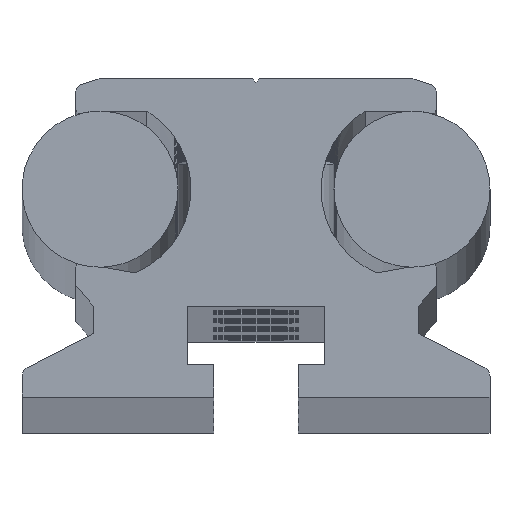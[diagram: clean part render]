
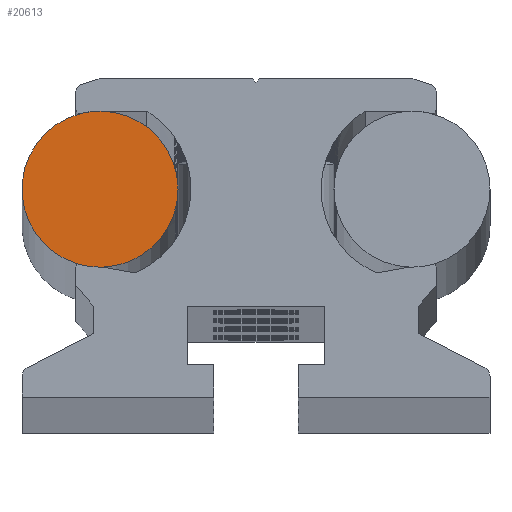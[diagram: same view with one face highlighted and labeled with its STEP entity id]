
A CAD part, top view. The second image highlights one B-rep face of the part: STEP entity #20613.
In plain terms, the highlighted planar face has unit normal (0, 0, 1).
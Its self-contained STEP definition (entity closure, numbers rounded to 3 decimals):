
#2989 = CARTESIAN_POINT ( 'NONE',  ( -12., 16., -0.5 ) ) ;
#3026 = DIRECTION ( 'NONE',  ( 0., 0., -1. ) ) ;
#3029 = DIRECTION ( 'NONE',  ( 1., 0., 0. ) ) ;
#3463 = CIRCLE ( 'NONE', #28660, 6. ) ;
#7160 = CIRCLE ( 'NONE', #19372, 6. ) ;
#7164 = CIRCLE ( 'NONE', #19376, 6. ) ;
#8023 = FACE_OUTER_BOUND ( 'NONE', #23238, .T. ) ;
#8882 = CARTESIAN_POINT ( 'NONE',  ( -13.719, 10.251, -0.5 ) ) ;
#8883 = CARTESIAN_POINT ( 'NONE',  ( -11.819, 10.003, -0.5 ) ) ;
#8890 = CARTESIAN_POINT ( 'NONE',  ( -6., 16., -0.5 ) ) ;
#8938 = CARTESIAN_POINT ( 'NONE',  ( -13.516, 21.805, -0.5 ) ) ;
#9077 = CARTESIAN_POINT ( 'NONE',  ( -12., 22., -0.5 ) ) ;
#9209 = CARTESIAN_POINT ( 'NONE',  ( -12., 16., -0.5 ) ) ;
#9215 = DIRECTION ( 'NONE',  ( 0., 0., -1. ) ) ;
#9216 = DIRECTION ( 'NONE',  ( 1., 0., 0. ) ) ;
#9976 = CARTESIAN_POINT ( 'NONE',  ( -12., 16., -0.5 ) ) ;
#9992 = DIRECTION ( 'NONE',  ( 0., 0., 1. ) ) ;
#9994 = DIRECTION ( 'NONE',  ( 1., 0., 0. ) ) ;
#10005 = CARTESIAN_POINT ( 'NONE',  ( -12., 16., -0.5 ) ) ;
#10019 = DIRECTION ( 'NONE',  ( 0., 0., 1. ) ) ;
#10021 = DIRECTION ( 'NONE',  ( 1., 0., 0. ) ) ;
#12516 = CARTESIAN_POINT ( 'NONE',  ( -12., 16., -0.5 ) ) ;
#12519 = DIRECTION ( 'NONE',  ( 0., 0., 1. ) ) ;
#12521 = DIRECTION ( 'NONE',  ( 1., 0., 0. ) ) ;
#16760 = VERTEX_POINT ( 'NONE', #8883 ) ;
#16773 = VERTEX_POINT ( 'NONE', #8890 ) ;
#16779 = VERTEX_POINT ( 'NONE', #8882 ) ;
#16861 = VERTEX_POINT ( 'NONE', #8938 ) ;
#17116 = VERTEX_POINT ( 'NONE', #9077 ) ;
#18292 = CIRCLE ( 'NONE', #19252, 6. ) ;
#18299 = CIRCLE ( 'NONE', #19251, 6. ) ;
#18408 = EDGE_CURVE ( 'NONE', #17116, #16773, #18292, .T. ) ;
#18601 = EDGE_CURVE ( 'NONE', #16861, #16779, #18299, .T. ) ;
#19033 = EDGE_CURVE ( 'NONE', #16779, #16760, #7160, .T. ) ;
#19037 = EDGE_CURVE ( 'NONE', #17116, #16861, #7164, .T. ) ;
#19251 = AXIS2_PLACEMENT_3D ( 'NONE', #12516, #12519, #12521 ) ;
#19252 = AXIS2_PLACEMENT_3D ( 'NONE', #9209, #9215, #9216 ) ;
#19372 = AXIS2_PLACEMENT_3D ( 'NONE', #9976, #9992, #9994 ) ;
#19376 = AXIS2_PLACEMENT_3D ( 'NONE', #10005, #10019, #10021 ) ;
#20613 = ADVANCED_FACE ( 'NONE', ( #8023 ), #29950, .T. ) ;
#22349 = ORIENTED_EDGE ( 'NONE', *, *, #19037, .T. ) ;
#22350 = ORIENTED_EDGE ( 'NONE', *, *, #18601, .T. ) ;
#22351 = ORIENTED_EDGE ( 'NONE', *, *, #19033, .T. ) ;
#22352 = ORIENTED_EDGE ( 'NONE', *, *, #25016, .F. ) ;
#22353 = ORIENTED_EDGE ( 'NONE', *, *, #18408, .F. ) ;
#23238 = EDGE_LOOP ( 'NONE', ( #22349, #22350, #22351, #22352, #22353 ) ) ;
#25016 = EDGE_CURVE ( 'NONE', #16773, #16760, #3463, .T. ) ;
#27375 = AXIS2_PLACEMENT_3D ( 'NONE', #29949, #29951, #29952 ) ;
#28660 = AXIS2_PLACEMENT_3D ( 'NONE', #2989, #3026, #3029 ) ;
#29949 = CARTESIAN_POINT ( 'NONE',  ( -12., 16., -0.5 ) ) ;
#29950 = PLANE ( 'NONE',  #27375 ) ;
#29951 = DIRECTION ( 'NONE',  ( 0., 0., 1. ) ) ;
#29952 = DIRECTION ( 'NONE',  ( 1., 0., 0. ) ) ;
